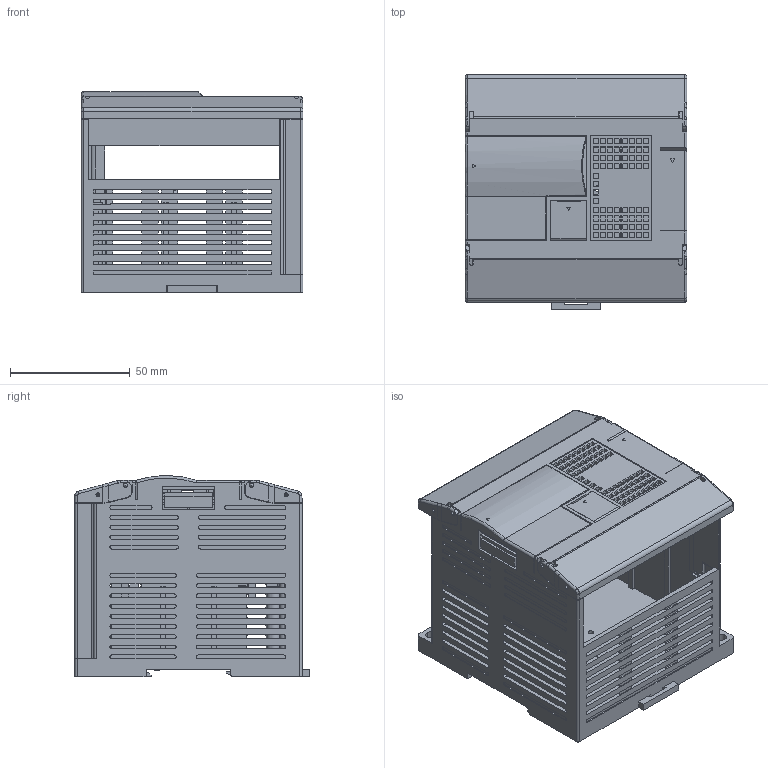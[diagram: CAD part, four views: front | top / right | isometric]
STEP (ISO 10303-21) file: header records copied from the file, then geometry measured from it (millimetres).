
FILE_DESCRIPTION (( 'STEP AP203' ), '1' );
FILE_NAME ('9公分 经典PLC扩展模块.STEP', '2023-06-10T02:52:28', ( 'h''w''s''j''s' ), ( '' ), 'SwSTEP 2.0', 'SolidWorks 2020', '' );
FILE_SCHEMA (( 'CONFIG_CONTROL_DESIGN' ));
Products named in the file (1): 9公分 经典PLC扩展模块
Bounding box: 92.7 x 98 x 84.2 mm (x, y, z)
Volume: 102493.5 mm3; surface area: 113629.2 mm2
Topology: 1 solids, 1 shells, 1778 faces, 5335 edges, 3499 vertices
Faces by surface type: plane 1301, cylinder 413, bspline 38, sphere 11, cone 8, torus 7
Entity records: 61108 total; most frequent: CARTESIAN_POINT 12292, ORIENTED_EDGE 10628, DIRECTION 9417, EDGE_CURVE 5314, LINE 4317, VECTOR 4317, VERTEX_POINT 3489, AXIS2_PLACEMENT_3D 2550
